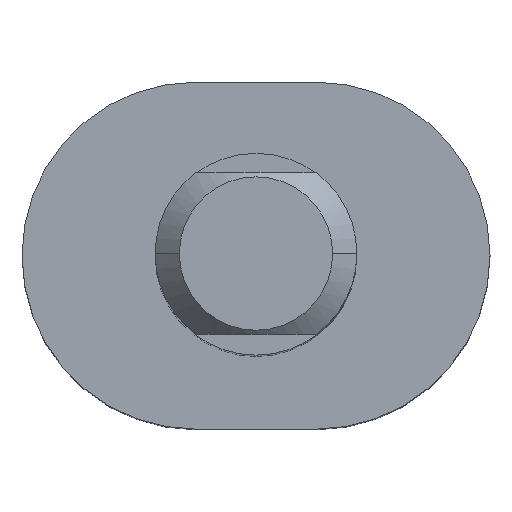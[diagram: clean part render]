
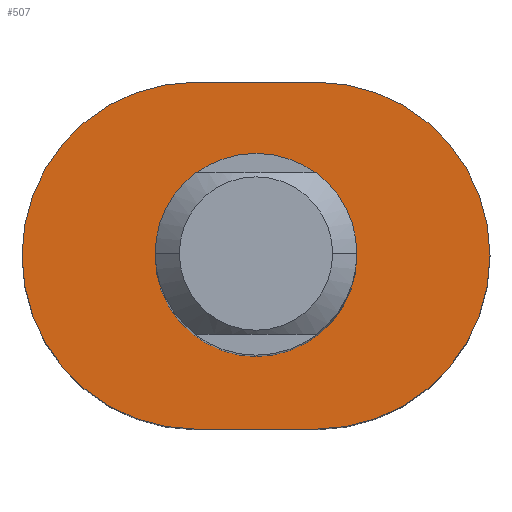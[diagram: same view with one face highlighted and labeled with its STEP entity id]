
A CAD part, top view. The second image highlights one B-rep face of the part: STEP entity #507.
In plain terms, the highlighted planar face has unit normal (0, 0, 1).
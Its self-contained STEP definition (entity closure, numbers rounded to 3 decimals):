
#12 = DIRECTION ( 'NONE',  ( 0., 0., 1. ) ) ;
#15 = DIRECTION ( 'NONE',  ( 0., 0., 1. ) ) ;
#27 = DIRECTION ( 'NONE',  ( 1., 0., 0. ) ) ;
#53 = CIRCLE ( 'NONE', #256, 2.15 ) ;
#55 = DIRECTION ( 'NONE',  ( 1., 0., 0. ) ) ;
#56 = DIRECTION ( 'NONE',  ( 0., 0., 1. ) ) ;
#57 = DIRECTION ( 'NONE',  ( 1., 0., 0. ) ) ;
#58 = EDGE_LOOP ( 'NONE', ( #72, #66 ) ) ;
#66 = ORIENTED_EDGE ( 'NONE', *, *, #227, .F. ) ;
#71 = DIRECTION ( 'NONE',  ( 0., 0., 1. ) ) ;
#72 = ORIENTED_EDGE ( 'NONE', *, *, #98, .F. ) ;
#74 = AXIS2_PLACEMENT_3D ( 'NONE', #332, #414, #419 ) ;
#75 = CARTESIAN_POINT ( 'NONE',  ( -0.75, 2.15, 5. ) ) ;
#82 = CARTESIAN_POINT ( 'NONE',  ( -0.75, -2.15, 5. ) ) ;
#84 = CARTESIAN_POINT ( 'NONE',  ( 1.25, 0., 5. ) ) ;
#88 = AXIS2_PLACEMENT_3D ( 'NONE', #353, #515, #385 ) ;
#91 = FACE_BOUND ( 'NONE', #58, .T. ) ;
#95 = CARTESIAN_POINT ( 'NONE',  ( -0.75, 0., 5. ) ) ;
#98 = EDGE_CURVE ( 'NONE', #230, #420, #200, .T. ) ;
#112 = LINE ( 'NONE', #75, #214 ) ;
#116 = EDGE_CURVE ( 'NONE', #271, #342, #398, .T. ) ;
#137 = CIRCLE ( 'NONE', #88, 2.15 ) ;
#139 = ORIENTED_EDGE ( 'NONE', *, *, #426, .T. ) ;
#195 = CARTESIAN_POINT ( 'NONE',  ( -0.75, -2.15, 5. ) ) ;
#199 = VERTEX_POINT ( 'NONE', #229 ) ;
#200 = CIRCLE ( 'NONE', #233, 1.25 ) ;
#201 = DIRECTION ( 'NONE',  ( 1., 0., 0. ) ) ;
#214 = VECTOR ( 'NONE', #459, 1000. ) ;
#219 = EDGE_CURVE ( 'NONE', #199, #271, #112, .T. ) ;
#222 = PLANE ( 'NONE',  #300 ) ;
#227 = EDGE_CURVE ( 'NONE', #420, #230, #254, .T. ) ;
#229 = CARTESIAN_POINT ( 'NONE',  ( 0.75, 2.15, 5. ) ) ;
#230 = VERTEX_POINT ( 'NONE', #231 ) ;
#231 = CARTESIAN_POINT ( 'NONE',  ( -1.25, 0., 5. ) ) ;
#233 = AXIS2_PLACEMENT_3D ( 'NONE', #261, #56, #57 ) ;
#238 = ORIENTED_EDGE ( 'NONE', *, *, #219, .T. ) ;
#244 = LINE ( 'NONE', #82, #275 ) ;
#254 = CIRCLE ( 'NONE', #356, 1.25 ) ;
#256 = AXIS2_PLACEMENT_3D ( 'NONE', #291, #15, #55 ) ;
#261 = CARTESIAN_POINT ( 'NONE',  ( 0., 0., 5. ) ) ;
#267 = ORIENTED_EDGE ( 'NONE', *, *, #284, .T. ) ;
#271 = VERTEX_POINT ( 'NONE', #430 ) ;
#275 = VECTOR ( 'NONE', #201, 1000. ) ;
#277 = VERTEX_POINT ( 'NONE', #195 ) ;
#284 = EDGE_CURVE ( 'NONE', #301, #199, #137, .T. ) ;
#291 = CARTESIAN_POINT ( 'NONE',  ( -0.75, 0., 5. ) ) ;
#300 = AXIS2_PLACEMENT_3D ( 'NONE', #95, #12, #492 ) ;
#301 = VERTEX_POINT ( 'NONE', #359 ) ;
#303 = EDGE_LOOP ( 'NONE', ( #376, #352, #139, #267, #238 ) ) ;
#332 = CARTESIAN_POINT ( 'NONE',  ( -0.75, 0., 5. ) ) ;
#342 = VERTEX_POINT ( 'NONE', #480 ) ;
#352 = ORIENTED_EDGE ( 'NONE', *, *, #488, .T. ) ;
#353 = CARTESIAN_POINT ( 'NONE',  ( 0.75, 0., 5. ) ) ;
#355 = CARTESIAN_POINT ( 'NONE',  ( 0., 0., 5. ) ) ;
#356 = AXIS2_PLACEMENT_3D ( 'NONE', #355, #71, #27 ) ;
#359 = CARTESIAN_POINT ( 'NONE',  ( 0.75, -2.15, 5. ) ) ;
#376 = ORIENTED_EDGE ( 'NONE', *, *, #116, .T. ) ;
#385 = DIRECTION ( 'NONE',  ( 1., 0., 0. ) ) ;
#398 = CIRCLE ( 'NONE', #74, 2.15 ) ;
#414 = DIRECTION ( 'NONE',  ( 0., 0., 1. ) ) ;
#419 = DIRECTION ( 'NONE',  ( 1., 0., 0. ) ) ;
#420 = VERTEX_POINT ( 'NONE', #84 ) ;
#426 = EDGE_CURVE ( 'NONE', #277, #301, #244, .T. ) ;
#430 = CARTESIAN_POINT ( 'NONE',  ( -0.75, 2.15, 5. ) ) ;
#452 = FACE_OUTER_BOUND ( 'NONE', #303, .T. ) ;
#459 = DIRECTION ( 'NONE',  ( -1., 0., 0. ) ) ;
#480 = CARTESIAN_POINT ( 'NONE',  ( -2.9, 0., 5. ) ) ;
#488 = EDGE_CURVE ( 'NONE', #342, #277, #53, .T. ) ;
#492 = DIRECTION ( 'NONE',  ( 1., 0., 0. ) ) ;
#507 = ADVANCED_FACE ( 'NONE', ( #91, #452 ), #222, .T. ) ;
#515 = DIRECTION ( 'NONE',  ( 0., 0., 1. ) ) ;
